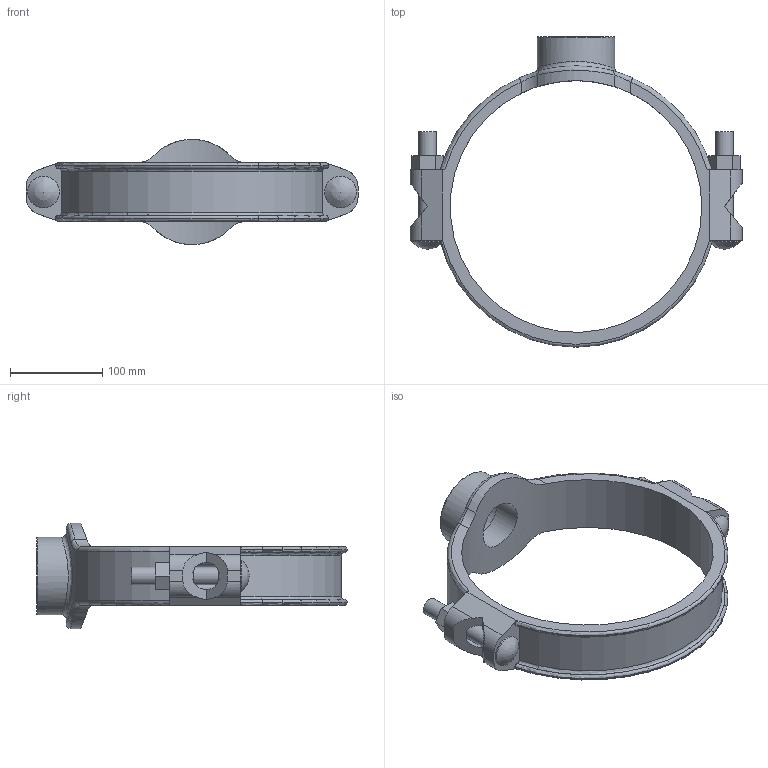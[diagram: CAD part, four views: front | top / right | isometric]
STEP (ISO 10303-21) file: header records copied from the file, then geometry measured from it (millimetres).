
FILE_DESCRIPTION(/* description */ ('VIC SS MECHANICAL T BRANCH OUTLET STYLE 422 (BSPT)','CAx-IF Rec.Pracs.---Representation and Presentation of Product Manufacturing Information (PMI)---4.0---2014-10-13'),/* implementation_level */ '2;1');
FILE_NAME(/* name */ 'C:\Files for Export\422\STEP\Victaulic_SS-OGS_Mech-Tee Out_Style 422 (BSPT)\Victaulic_SS-OGS_Mech-Tee Out_Style 422 (BSPT)_10.0x02.0 (250x50).stp',/* time_stamp */ '2023-03-28T14:27:39+02:00',/* author */ ('jheald'),/* organization */ ('Victaulic'),/* preprocessor_version */ 'ST-DEVELOPER v18.1',/* originating_system */ 'Autodesk Inventor 2020',/* authorisation */ '');
FILE_SCHEMA (('AP242_MANAGED_MODEL_BASED_3D_ENGINEERING_MIM_LF { 1 0 10303 442 1 1 4 }'));
Length unit declared in the file: inch
Products named in the file (1): 422-10.0x02.0
Bounding box: 360.17 x 336.55 x 114.24 mm (x, y, z)
Volume: 1100728.9 mm3; surface area: 202158.9 mm2
Topology: 1 solids, 1 shells, 106 faces, 308 edges, 204 vertices
Faces by surface type: plane 52, cylinder 34, torus 11, bspline 9
Full cylindrical faces by diameter (mm): 19.05 x4, 34.29 x2, 52.387 x1, 60.325 x1, 84.074 x1, 273.05 x1
Entity records: 4604 total; most frequent: CARTESIAN_POINT 1586, ORIENTED_EDGE 612, DIRECTION 584, EDGE_CURVE 306, AXIS2_PLACEMENT_3D 214, VERTEX_POINT 204, LINE 156, VECTOR 156
